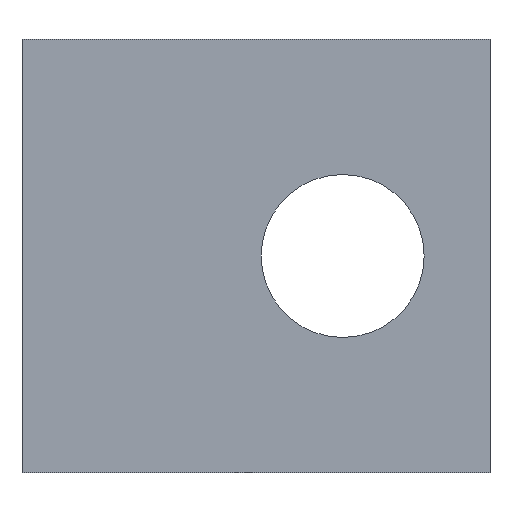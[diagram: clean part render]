
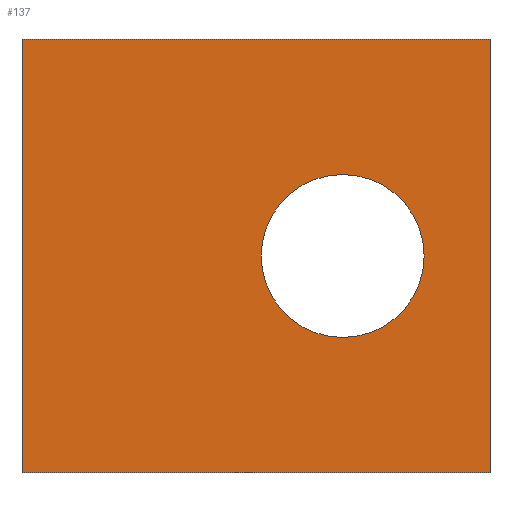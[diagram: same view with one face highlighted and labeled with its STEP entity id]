
A CAD part, front view. The second image highlights one B-rep face of the part: STEP entity #137.
In plain terms, the highlighted planar face has unit normal (0, -1, 0).
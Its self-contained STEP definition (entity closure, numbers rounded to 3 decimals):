
#21 = EDGE_CURVE('',#22,#24,#26,.T.);
#22 = VERTEX_POINT('',#23);
#23 = CARTESIAN_POINT('',(16.3,-4.36,-25.9));
#24 = VERTEX_POINT('',#25);
#25 = CARTESIAN_POINT('',(16.3,-4.36,-20.9));
#26 = SURFACE_CURVE('',#27,(#31,#43),.PCURVE_S1.);
#27 = LINE('',#28,#29);
#28 = CARTESIAN_POINT('',(16.3,-4.36,-25.9));
#29 = VECTOR('',#30,1.);
#30 = DIRECTION('',(0.,0.,1.));
#31 = PCURVE('',#32,#37);
#32 = PLANE('',#33);
#33 = AXIS2_PLACEMENT_3D('',#34,#35,#36);
#34 = CARTESIAN_POINT('',(16.3,-4.36,-25.9));
#35 = DIRECTION('',(1.,0.,0.));
#36 = DIRECTION('',(0.,0.,1.));
#37 = DEFINITIONAL_REPRESENTATION('',(#38),#42);
#38 = LINE('',#39,#40);
#39 = CARTESIAN_POINT('',(0.,0.));
#40 = VECTOR('',#41,1.);
#41 = DIRECTION('',(1.,0.));
#42 = ( GEOMETRIC_REPRESENTATION_CONTEXT(2) 
PARAMETRIC_REPRESENTATION_CONTEXT() REPRESENTATION_CONTEXT('2D SPACE',''
  ) );
#43 = PCURVE('',#44,#49);
#44 = PLANE('',#45);
#45 = AXIS2_PLACEMENT_3D('',#46,#47,#48);
#46 = CARTESIAN_POINT('',(16.3,-4.36,-25.9));
#47 = DIRECTION('',(0.,1.,0.));
#48 = DIRECTION('',(0.,0.,1.));
#49 = DEFINITIONAL_REPRESENTATION('',(#50),#54);
#50 = LINE('',#51,#52);
#51 = CARTESIAN_POINT('',(0.,0.));
#52 = VECTOR('',#53,1.);
#53 = DIRECTION('',(1.,0.));
#54 = ( GEOMETRIC_REPRESENTATION_CONTEXT(2) 
PARAMETRIC_REPRESENTATION_CONTEXT() REPRESENTATION_CONTEXT('2D SPACE',''
  ) );
#72 = PLANE('',#73);
#73 = AXIS2_PLACEMENT_3D('',#74,#75,#76);
#74 = CARTESIAN_POINT('',(16.3,-4.36,-25.9));
#75 = DIRECTION('',(0.,0.,1.));
#76 = DIRECTION('',(1.,0.,0.));
#126 = PLANE('',#127);
#127 = AXIS2_PLACEMENT_3D('',#128,#129,#130);
#128 = CARTESIAN_POINT('',(16.3,-4.36,-20.9));
#129 = DIRECTION('',(0.,0.,1.));
#130 = DIRECTION('',(1.,0.,0.));
#137 = ADVANCED_FACE('',(#138,#213),#44,.F.);
#138 = FACE_BOUND('',#139,.F.);
#139 = EDGE_LOOP('',(#140,#163,#164,#187));
#140 = ORIENTED_EDGE('',*,*,#141,.F.);
#141 = EDGE_CURVE('',#22,#142,#144,.T.);
#142 = VERTEX_POINT('',#143);
#143 = CARTESIAN_POINT('',(21.7,-4.36,-25.9));
#144 = SURFACE_CURVE('',#145,(#149,#156),.PCURVE_S1.);
#145 = LINE('',#146,#147);
#146 = CARTESIAN_POINT('',(16.3,-4.36,-25.9));
#147 = VECTOR('',#148,1.);
#148 = DIRECTION('',(1.,0.,0.));
#149 = PCURVE('',#44,#150);
#150 = DEFINITIONAL_REPRESENTATION('',(#151),#155);
#151 = LINE('',#152,#153);
#152 = CARTESIAN_POINT('',(0.,0.));
#153 = VECTOR('',#154,1.);
#154 = DIRECTION('',(0.,1.));
#155 = ( GEOMETRIC_REPRESENTATION_CONTEXT(2) 
PARAMETRIC_REPRESENTATION_CONTEXT() REPRESENTATION_CONTEXT('2D SPACE',''
  ) );
#156 = PCURVE('',#72,#157);
#157 = DEFINITIONAL_REPRESENTATION('',(#158),#162);
#158 = LINE('',#159,#160);
#159 = CARTESIAN_POINT('',(0.,0.));
#160 = VECTOR('',#161,1.);
#161 = DIRECTION('',(1.,0.));
#162 = ( GEOMETRIC_REPRESENTATION_CONTEXT(2) 
PARAMETRIC_REPRESENTATION_CONTEXT() REPRESENTATION_CONTEXT('2D SPACE',''
  ) );
#163 = ORIENTED_EDGE('',*,*,#21,.T.);
#164 = ORIENTED_EDGE('',*,*,#165,.T.);
#165 = EDGE_CURVE('',#24,#166,#168,.T.);
#166 = VERTEX_POINT('',#167);
#167 = CARTESIAN_POINT('',(21.7,-4.36,-20.9));
#168 = SURFACE_CURVE('',#169,(#173,#180),.PCURVE_S1.);
#169 = LINE('',#170,#171);
#170 = CARTESIAN_POINT('',(16.3,-4.36,-20.9));
#171 = VECTOR('',#172,1.);
#172 = DIRECTION('',(1.,0.,0.));
#173 = PCURVE('',#44,#174);
#174 = DEFINITIONAL_REPRESENTATION('',(#175),#179);
#175 = LINE('',#176,#177);
#176 = CARTESIAN_POINT('',(5.,0.));
#177 = VECTOR('',#178,1.);
#178 = DIRECTION('',(0.,1.));
#179 = ( GEOMETRIC_REPRESENTATION_CONTEXT(2) 
PARAMETRIC_REPRESENTATION_CONTEXT() REPRESENTATION_CONTEXT('2D SPACE',''
  ) );
#180 = PCURVE('',#126,#181);
#181 = DEFINITIONAL_REPRESENTATION('',(#182),#186);
#182 = LINE('',#183,#184);
#183 = CARTESIAN_POINT('',(0.,0.));
#184 = VECTOR('',#185,1.);
#185 = DIRECTION('',(1.,0.));
#186 = ( GEOMETRIC_REPRESENTATION_CONTEXT(2) 
PARAMETRIC_REPRESENTATION_CONTEXT() REPRESENTATION_CONTEXT('2D SPACE',''
  ) );
#187 = ORIENTED_EDGE('',*,*,#188,.F.);
#188 = EDGE_CURVE('',#142,#166,#189,.T.);
#189 = SURFACE_CURVE('',#190,(#194,#201),.PCURVE_S1.);
#190 = LINE('',#191,#192);
#191 = CARTESIAN_POINT('',(21.7,-4.36,-25.9));
#192 = VECTOR('',#193,1.);
#193 = DIRECTION('',(0.,0.,1.));
#194 = PCURVE('',#44,#195);
#195 = DEFINITIONAL_REPRESENTATION('',(#196),#200);
#196 = LINE('',#197,#198);
#197 = CARTESIAN_POINT('',(0.,5.4));
#198 = VECTOR('',#199,1.);
#199 = DIRECTION('',(1.,0.));
#200 = ( GEOMETRIC_REPRESENTATION_CONTEXT(2) 
PARAMETRIC_REPRESENTATION_CONTEXT() REPRESENTATION_CONTEXT('2D SPACE',''
  ) );
#201 = PCURVE('',#202,#207);
#202 = PLANE('',#203);
#203 = AXIS2_PLACEMENT_3D('',#204,#205,#206);
#204 = CARTESIAN_POINT('',(21.7,-4.36,-25.9));
#205 = DIRECTION('',(1.,0.,0.));
#206 = DIRECTION('',(0.,0.,1.));
#207 = DEFINITIONAL_REPRESENTATION('',(#208),#212);
#208 = LINE('',#209,#210);
#209 = CARTESIAN_POINT('',(0.,0.));
#210 = VECTOR('',#211,1.);
#211 = DIRECTION('',(1.,0.));
#212 = ( GEOMETRIC_REPRESENTATION_CONTEXT(2) 
PARAMETRIC_REPRESENTATION_CONTEXT() REPRESENTATION_CONTEXT('2D SPACE',''
  ) );
#213 = FACE_BOUND('',#214,.F.);
#214 = EDGE_LOOP('',(#215));
#215 = ORIENTED_EDGE('',*,*,#216,.F.);
#216 = EDGE_CURVE('',#217,#217,#219,.T.);
#217 = VERTEX_POINT('',#218);
#218 = CARTESIAN_POINT('',(20.94,-4.36,-23.4));
#219 = SURFACE_CURVE('',#220,(#225,#232),.PCURVE_S1.);
#220 = CIRCLE('',#221,0.94);
#221 = AXIS2_PLACEMENT_3D('',#222,#223,#224);
#222 = CARTESIAN_POINT('',(20.,-4.36,-23.4));
#223 = DIRECTION('',(-0.,1.,0.));
#224 = DIRECTION('',(1.,0.,0.));
#225 = PCURVE('',#44,#226);
#226 = DEFINITIONAL_REPRESENTATION('',(#227),#231);
#227 = CIRCLE('',#228,0.94);
#228 = AXIS2_PLACEMENT_2D('',#229,#230);
#229 = CARTESIAN_POINT('',(2.5,3.7));
#230 = DIRECTION('',(0.,1.));
#231 = ( GEOMETRIC_REPRESENTATION_CONTEXT(2) 
PARAMETRIC_REPRESENTATION_CONTEXT() REPRESENTATION_CONTEXT('2D SPACE',''
  ) );
#232 = PCURVE('',#233,#238);
#233 = CYLINDRICAL_SURFACE('',#234,0.94);
#234 = AXIS2_PLACEMENT_3D('',#235,#236,#237);
#235 = CARTESIAN_POINT('',(20.,-2.9,-23.4));
#236 = DIRECTION('',(-0.,1.,-0.));
#237 = DIRECTION('',(1.,0.,0.));
#238 = DEFINITIONAL_REPRESENTATION('',(#239),#243);
#239 = LINE('',#240,#241);
#240 = CARTESIAN_POINT('',(-6.283,-1.46));
#241 = VECTOR('',#242,1.);
#242 = DIRECTION('',(1.,-0.));
#243 = ( GEOMETRIC_REPRESENTATION_CONTEXT(2) 
PARAMETRIC_REPRESENTATION_CONTEXT() REPRESENTATION_CONTEXT('2D SPACE',''
  ) );
